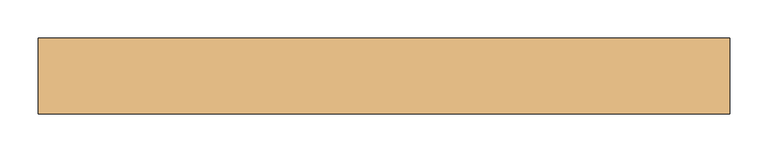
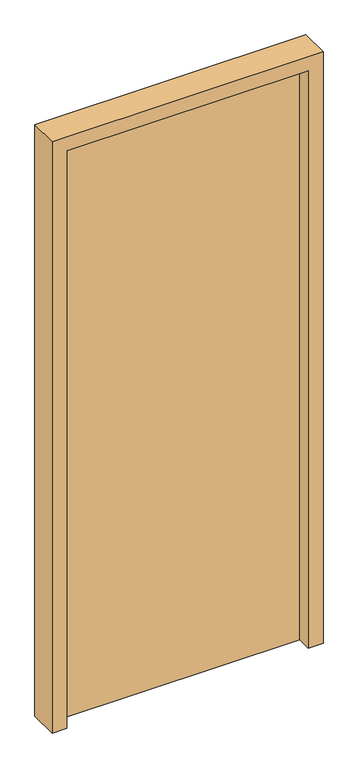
"""IFC4 building model written with IfcOpenShell, lengths in millimetres: door geometry, (Dr)_ДУ(распашная)_1Ст_Прямоугольная : (Вн)_ДГ(0.91х2.1(h))."""

from ifc_helpers import new_model, si_unit, frame, origin, origin_with_axes, place, context, project, spatial, polyline, outline, extrude, source, transform, mapped, element, save


def door_af16f654(model_context):
    return source(origin(), model_context, "Body", "SweptSolid", [
        extrude(outline(polyline([(-405.0, 100.0), (405.0, 100.0), (405.0, 50.0), (-405.0, 50.0), (-405.0, 100.0)])), origin_with_axes(), (0.0, 0.0, 1.0), 2050.0),
        extrude(outline(polyline([(0.0, -455.0), (0.0, -405.0), (2050.0, -405.0), (2050.0, 405.0), (0.0, 405.0), (0.0, 455.0), (2100.0, 455.0), (2100.0, -455.0), (0.0, -455.0)])), frame((0.0, 0.0, 0.0), z_axis=(0.0, 1.0, 0.0), x_axis=(0.0, 0.0, 1.0)), (0.0, 0.0, 1.0), 100.0),
    ])


if __name__ == "__main__":
    model = new_model("IFC4")
    model_context = context("Model", 3, world=origin())
    ifc_project = project(units=[si_unit("LENGTHUNIT", "METRE", prefix="MILLI")], contexts=[model_context])
    site = spatial("IfcSite", under=ifc_project)
    building = spatial("IfcBuilding", under=site)
    placement = place(None, origin())
    door_shape = door_af16f654(model_context)
    element("IfcDoor", 1, ObjectType="(Dr)_ДУ(распашная)_1Ст_Прямоугольная : (Вн)_ДГ(0.91х2.1(h))", at=placement, inside=building, context=model_context, shape_type="MappedRepresentation", body=[
        mapped(door_shape, transform((0.0, 0.0, 0.0), x_axis=(1.0, 0.0, 0.0), y_axis=(0.0, 1.0, 0.0), z_axis=(0.0, 0.0, 1.0))),
    ])
    save(model, "model.ifc")
